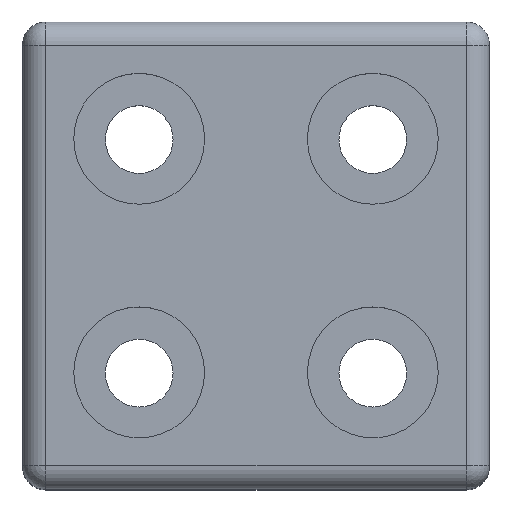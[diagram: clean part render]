
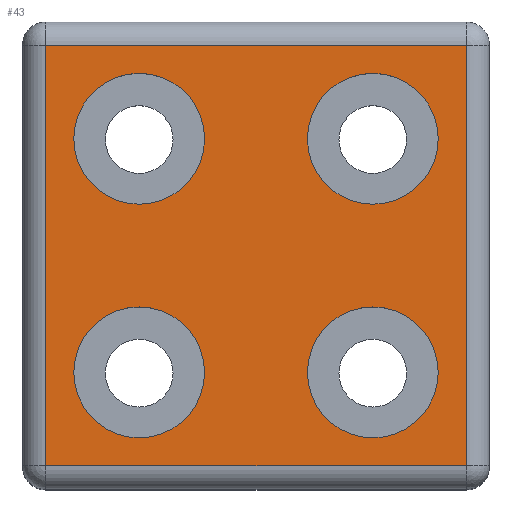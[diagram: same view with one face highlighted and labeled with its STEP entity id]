
A CAD part, top view. The second image highlights one B-rep face of the part: STEP entity #43.
In plain terms, the highlighted planar face has unit normal (0, 0, 1).
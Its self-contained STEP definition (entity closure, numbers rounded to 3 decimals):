
#3 = CARTESIAN_POINT ( 'NONE',  ( 25., 25., 5. ) ) ;
#9 = ORIENTED_EDGE ( 'NONE', *, *, #762, .F. ) ;
#20 = ORIENTED_EDGE ( 'NONE', *, *, #1340, .F. ) ;
#21 = DIRECTION ( 'NONE',  ( -1., 0., 0. ) ) ;
#23 = LINE ( 'NONE', #873, #830 ) ;
#38 = ORIENTED_EDGE ( 'NONE', *, *, #1053, .F. ) ;
#43 = ADVANCED_FACE ( 'NONE', ( #1191, #629, #918, #349, #77 ), #381, .T. ) ;
#65 = VERTEX_POINT ( 'NONE', #1326 ) ;
#77 = FACE_BOUND ( 'NONE', #327, .T. ) ;
#85 = CARTESIAN_POINT ( 'NONE',  ( -39., -25., 5. ) ) ;
#88 = EDGE_LOOP ( 'NONE', ( #1345, #995 ) ) ;
#101 = CARTESIAN_POINT ( 'NONE',  ( -45., -45., 5. ) ) ;
#112 = CARTESIAN_POINT ( 'NONE',  ( -25., 25., 5. ) ) ;
#132 = DIRECTION ( 'NONE',  ( 1., 0., 0. ) ) ;
#145 = CARTESIAN_POINT ( 'NONE',  ( -45., -50., 5. ) ) ;
#174 = EDGE_LOOP ( 'NONE', ( #841, #544, #492, #1237 ) ) ;
#175 = VERTEX_POINT ( 'NONE', #1044 ) ;
#180 = EDGE_CURVE ( 'NONE', #1008, #750, #662, .T. ) ;
#182 = CARTESIAN_POINT ( 'NONE',  ( 11., -25., 5. ) ) ;
#185 = DIRECTION ( 'NONE',  ( 1., 0., 0. ) ) ;
#198 = AXIS2_PLACEMENT_3D ( 'NONE', #1198, #561, #1302 ) ;
#199 = AXIS2_PLACEMENT_3D ( 'NONE', #1208, #907, #772 ) ;
#210 = DIRECTION ( 'NONE',  ( 0., 0., 1. ) ) ;
#220 = AXIS2_PLACEMENT_3D ( 'NONE', #570, #256, #803 ) ;
#243 = AXIS2_PLACEMENT_3D ( 'NONE', #3, #632, #1265 ) ;
#256 = DIRECTION ( 'NONE',  ( 0., 0., 1. ) ) ;
#267 = CARTESIAN_POINT ( 'NONE',  ( 0., 0., 5. ) ) ;
#274 = ORIENTED_EDGE ( 'NONE', *, *, #857, .F. ) ;
#278 = VERTEX_POINT ( 'NONE', #182 ) ;
#290 = CARTESIAN_POINT ( 'NONE',  ( -25., -25., 5. ) ) ;
#327 = EDGE_LOOP ( 'NONE', ( #20, #9 ) ) ;
#334 = VERTEX_POINT ( 'NONE', #1248 ) ;
#349 = FACE_BOUND ( 'NONE', #1335, .T. ) ;
#350 = CIRCLE ( 'NONE', #962, 14. ) ;
#381 = PLANE ( 'NONE',  #1235 ) ;
#392 = CARTESIAN_POINT ( 'NONE',  ( 11., 25., 5. ) ) ;
#399 = DIRECTION ( 'NONE',  ( 0., 0., 1. ) ) ;
#409 = CARTESIAN_POINT ( 'NONE',  ( -11., 25., 5. ) ) ;
#442 = DIRECTION ( 'NONE',  ( 0., 1., 0. ) ) ;
#474 = CIRCLE ( 'NONE', #243, 14. ) ;
#482 = DIRECTION ( 'NONE',  ( 1., 0., 0. ) ) ;
#492 = ORIENTED_EDGE ( 'NONE', *, *, #819, .T. ) ;
#531 = EDGE_CURVE ( 'NONE', #278, #786, #580, .T. ) ;
#535 = EDGE_CURVE ( 'NONE', #769, #334, #23, .T. ) ;
#537 = CARTESIAN_POINT ( 'NONE',  ( -50., 45., 5. ) ) ;
#544 = ORIENTED_EDGE ( 'NONE', *, *, #535, .T. ) ;
#546 = CARTESIAN_POINT ( 'NONE',  ( 39., 25., 5. ) ) ;
#554 = CIRCLE ( 'NONE', #199, 14. ) ;
#561 = DIRECTION ( 'NONE',  ( 0., 0., 1. ) ) ;
#565 = EDGE_CURVE ( 'NONE', #696, #175, #1066, .T. ) ;
#570 = CARTESIAN_POINT ( 'NONE',  ( 25., -25., 5. ) ) ;
#580 = CIRCLE ( 'NONE', #1048, 14. ) ;
#610 = VECTOR ( 'NONE', #442, 1000. ) ;
#629 = FACE_BOUND ( 'NONE', #1069, .T. ) ;
#632 = DIRECTION ( 'NONE',  ( 0., 0., 1. ) ) ;
#653 = CARTESIAN_POINT ( 'NONE',  ( 25., -25., 5. ) ) ;
#657 = CIRCLE ( 'NONE', #1065, 14. ) ;
#662 = CIRCLE ( 'NONE', #1076, 14. ) ;
#664 = EDGE_CURVE ( 'NONE', #1032, #1263, #474, .T. ) ;
#696 = VERTEX_POINT ( 'NONE', #1041 ) ;
#704 = DIRECTION ( 'NONE',  ( 0., 0., 1. ) ) ;
#747 = CARTESIAN_POINT ( 'NONE',  ( 39., -25., 5. ) ) ;
#750 = VERTEX_POINT ( 'NONE', #409 ) ;
#759 = DIRECTION ( 'NONE',  ( 1., 0., 0. ) ) ;
#762 = EDGE_CURVE ( 'NONE', #1093, #65, #350, .T. ) ;
#769 = VERTEX_POINT ( 'NONE', #101 ) ;
#772 = DIRECTION ( 'NONE',  ( 1., 0., 0. ) ) ;
#786 = VERTEX_POINT ( 'NONE', #747 ) ;
#803 = DIRECTION ( 'NONE',  ( 1., 0., 0. ) ) ;
#819 = EDGE_CURVE ( 'NONE', #334, #696, #899, .T. ) ;
#829 = CARTESIAN_POINT ( 'NONE',  ( -39., 25., 5. ) ) ;
#830 = VECTOR ( 'NONE', #132, 1000. ) ;
#841 = ORIENTED_EDGE ( 'NONE', *, *, #1352, .T. ) ;
#857 = EDGE_CURVE ( 'NONE', #786, #278, #866, .T. ) ;
#863 = LINE ( 'NONE', #145, #1059 ) ;
#866 = CIRCLE ( 'NONE', #220, 14. ) ;
#873 = CARTESIAN_POINT ( 'NONE',  ( 50., -45., 5. ) ) ;
#890 = ORIENTED_EDGE ( 'NONE', *, *, #531, .F. ) ;
#899 = LINE ( 'NONE', #1200, #610 ) ;
#907 = DIRECTION ( 'NONE',  ( 0., 0., 1. ) ) ;
#918 = FACE_BOUND ( 'NONE', #88, .T. ) ;
#931 = DIRECTION ( 'NONE',  ( 0., 0., 1. ) ) ;
#951 = DIRECTION ( 'NONE',  ( 1., 0., 0. ) ) ;
#962 = AXIS2_PLACEMENT_3D ( 'NONE', #290, #931, #185 ) ;
#966 = ORIENTED_EDGE ( 'NONE', *, *, #180, .F. ) ;
#995 = ORIENTED_EDGE ( 'NONE', *, *, #664, .F. ) ;
#1008 = VERTEX_POINT ( 'NONE', #829 ) ;
#1011 = CARTESIAN_POINT ( 'NONE',  ( -25., 25., 5. ) ) ;
#1032 = VERTEX_POINT ( 'NONE', #392 ) ;
#1034 = VECTOR ( 'NONE', #21, 1000. ) ;
#1041 = CARTESIAN_POINT ( 'NONE',  ( 45., 45., 5. ) ) ;
#1044 = CARTESIAN_POINT ( 'NONE',  ( -45., 45., 5. ) ) ;
#1048 = AXIS2_PLACEMENT_3D ( 'NONE', #653, #1289, #759 ) ;
#1053 = EDGE_CURVE ( 'NONE', #750, #1008, #657, .T. ) ;
#1059 = VECTOR ( 'NONE', #1085, 1000. ) ;
#1065 = AXIS2_PLACEMENT_3D ( 'NONE', #1011, #399, #1128 ) ;
#1066 = LINE ( 'NONE', #537, #1034 ) ;
#1069 = EDGE_LOOP ( 'NONE', ( #38, #966 ) ) ;
#1076 = AXIS2_PLACEMENT_3D ( 'NONE', #112, #210, #951 ) ;
#1085 = DIRECTION ( 'NONE',  ( 0., -1., 0. ) ) ;
#1093 = VERTEX_POINT ( 'NONE', #85 ) ;
#1101 = CIRCLE ( 'NONE', #198, 14. ) ;
#1106 = EDGE_CURVE ( 'NONE', #1263, #1032, #554, .T. ) ;
#1128 = DIRECTION ( 'NONE',  ( 1., 0., 0. ) ) ;
#1191 = FACE_OUTER_BOUND ( 'NONE', #174, .T. ) ;
#1198 = CARTESIAN_POINT ( 'NONE',  ( -25., -25., 5. ) ) ;
#1200 = CARTESIAN_POINT ( 'NONE',  ( 45., 50., 5. ) ) ;
#1208 = CARTESIAN_POINT ( 'NONE',  ( 25., 25., 5. ) ) ;
#1235 = AXIS2_PLACEMENT_3D ( 'NONE', #267, #704, #482 ) ;
#1237 = ORIENTED_EDGE ( 'NONE', *, *, #565, .T. ) ;
#1248 = CARTESIAN_POINT ( 'NONE',  ( 45., -45., 5. ) ) ;
#1263 = VERTEX_POINT ( 'NONE', #546 ) ;
#1265 = DIRECTION ( 'NONE',  ( 1., 0., 0. ) ) ;
#1289 = DIRECTION ( 'NONE',  ( 0., 0., 1. ) ) ;
#1302 = DIRECTION ( 'NONE',  ( 1., 0., 0. ) ) ;
#1326 = CARTESIAN_POINT ( 'NONE',  ( -11., -25., 5. ) ) ;
#1335 = EDGE_LOOP ( 'NONE', ( #274, #890 ) ) ;
#1340 = EDGE_CURVE ( 'NONE', #65, #1093, #1101, .T. ) ;
#1345 = ORIENTED_EDGE ( 'NONE', *, *, #1106, .F. ) ;
#1352 = EDGE_CURVE ( 'NONE', #175, #769, #863, .T. ) ;
